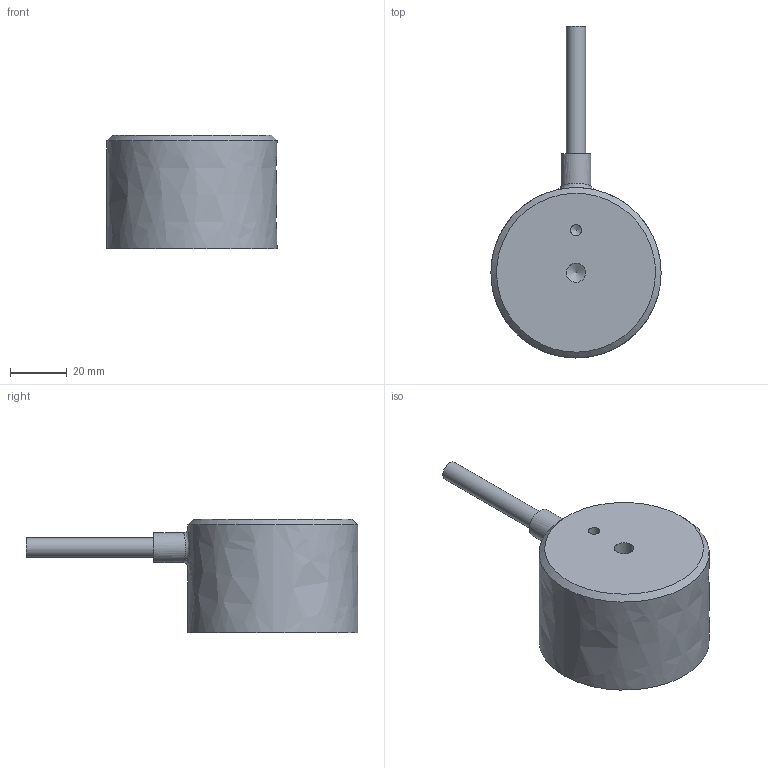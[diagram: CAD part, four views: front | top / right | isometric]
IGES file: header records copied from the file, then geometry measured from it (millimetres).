
Global section: file name: EMH-1-60Dx40H-S; native system: unknown; preprocessor: unknown; author: unknown; organization: unknown; date: 20231215.113419; units: millimetre
Bounding box: 60 x 117 x 40 mm (x, y, z)
Volume: 114651.3 mm3; surface area: 14703.9 mm2
Topology: 2 solids, 2 shells, 18 faces, 35 edges, 24 vertices
Faces by surface type: bspline 18
